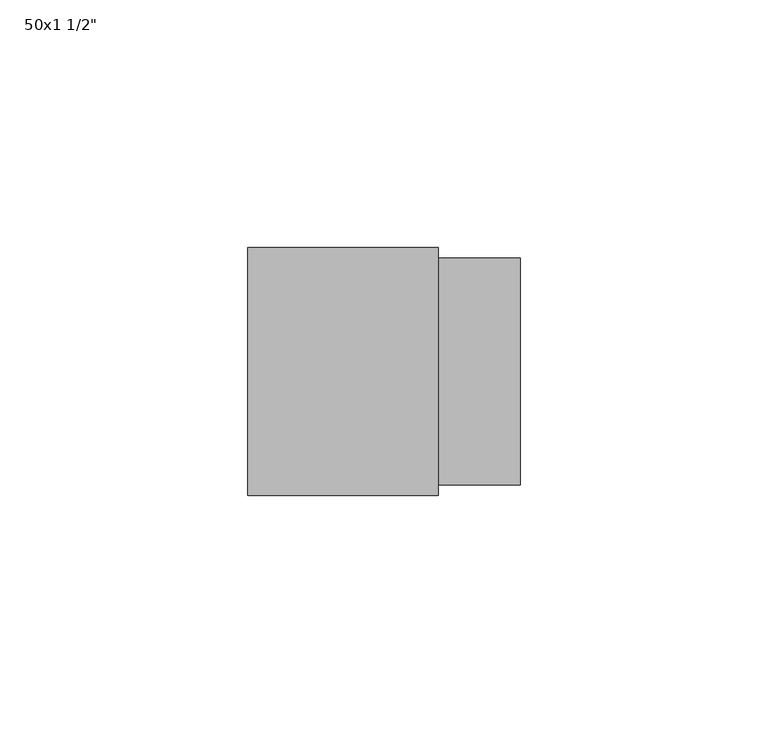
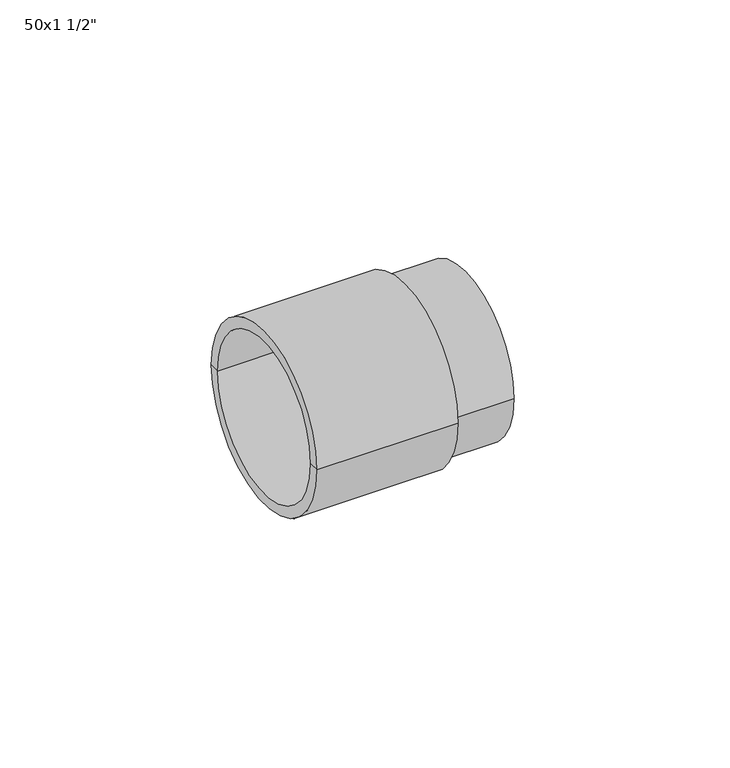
"""IFC4 building model written with IfcOpenShell, lengths in millimetres: pipe fitting geometry."""

import ifcopenshell
import ifcopenshell.guid

model = None  # the IFC model being written
_history = None  # IfcOwnerHistory: only IFC2X3 demands one
_inside = {}  # id of a spatial element -> (the spatial element, [elements in it])
_under = {}  # id of a project, library or spatial element -> (it, [spatial elements below it])
_declared = {}  # id of a project -> (the project, [libraries it declares])
_typed = {}  # id of a type object -> (the type object, [elements of that type])
_made_of = {}  # id of a material, layer set ... -> (it, [elements and type objects made of it])


def new_model(schema):
    """Start an empty IFC model of exactly this schema.

    Asked for "IFC4X3", IfcOpenShell would pick the latest addendum, in which some entities
    have other attributes; the version numbers below select the first issue.
    IFC2X3 requires an IfcOwnerHistory on every rooted entity: one is made here for all.
    """
    global model, _history
    if schema == "IFC4X3":
        model = ifcopenshell.file(schema_version=(4, 3, 0, 0))
    else:
        model = ifcopenshell.file(schema=schema)
    _inside.clear()
    _under.clear()
    _declared.clear()
    _typed.clear()
    _made_of.clear()
    _history = None
    if model.schema == "IFC2X3":
        org = make("IfcOrganization", Name="unknown")
        user = make(
            "IfcPersonAndOrganization",
            ThePerson=make("IfcPerson", FamilyName="unknown"),
            TheOrganization=org,
        )
        app = make(
            "IfcApplication",
            ApplicationDeveloper=org,
            Version="unknown",
            ApplicationFullName="unknown",
            ApplicationIdentifier="unknown",
        )
        _history = make(
            "IfcOwnerHistory",
            OwningUser=user,
            OwningApplication=app,
            ChangeAction="ADDED",
            CreationDate=0,
        )
    return model


def make(cls, **values):
    """One entity of the class cls with the attributes given. An attribute that is None is left unset."""
    return model.create_entity(
        cls, **{name: value for name, value in values.items() if value is not None}
    )


def rooted(cls, **values):
    """An entity with a GlobalId (a new one), such as an element, a storey or a relation."""
    return make(cls, GlobalId=ifcopenshell.guid.new(), OwnerHistory=_history, **values)


def si_unit(unit_type, name, prefix=None):
    """IfcSIUnit, for example si_unit("LENGTHUNIT", "METRE", prefix="MILLI")."""
    return make("IfcSIUnit", UnitType=unit_type, Prefix=prefix, Name=name)


def assignment(units):
    """IfcUnitAssignment: the units of a project."""
    return None if units is None else make("IfcUnitAssignment", Units=units)


def point(xyz):
    """IfcCartesianPoint."""
    return None if xyz is None else make("IfcCartesianPoint", Coordinates=xyz)


def direction(xyz):
    """IfcDirection."""
    return None if xyz is None else make("IfcDirection", DirectionRatios=xyz)


def frame(location, z_axis=None, x_axis=None):
    """IfcAxis2Placement3D, a coordinate frame: its origin and axes. An axis left out is left unset."""
    return make(
        "IfcAxis2Placement3D",
        Location=point(location),
        Axis=direction(z_axis),
        RefDirection=direction(x_axis),
    )


def origin():
    """The frame at (0, 0, 0) with its axes left unset."""
    return frame((0.0, 0.0, 0.0))


def place(relative_to, where):
    """IfcLocalPlacement: puts the frame where relative to a parent placement (None: the world)."""
    return make(
        "IfcLocalPlacement", PlacementRelTo=relative_to, RelativePlacement=where
    )


def context(
    kind, dimensions, precision=None, world=None, true_north=None, identifier=None
):
    """IfcGeometricRepresentationContext, for example the 3D "Model" context."""
    return make(
        "IfcGeometricRepresentationContext",
        ContextIdentifier=identifier,
        ContextType=kind,
        CoordinateSpaceDimension=dimensions,
        Precision=precision,
        WorldCoordinateSystem=world,
        TrueNorth=true_north,
    )


def project(units=None, contexts=None):
    """IfcProject with its units and contexts."""
    return rooted(
        "IfcProject",
        Name="project",
        RepresentationContexts=contexts,
        UnitsInContext=assignment(units),
    )


def spatial(cls, under=None, at=None, **own):
    """A site, building, storey or space (cls), placed at a placement, below another one or the project."""
    s = rooted(cls, ObjectPlacement=at, **own)
    if under is not None:
        _under.setdefault(under.id(), (under, []))[1].append(s)
    return s


def polyline(points):
    """IfcPolyline through the points."""
    return make("IfcPolyline", Points=[point(p) for p in points])


def circle_curve(where, radius):
    """IfcCircle in the frame where."""
    return make("IfcCircle", Position=where, Radius=radius)


def shape(context_of_items, identifier, shape_type, items):
    """IfcShapeRepresentation: the items that make up one representation, for example the "Body"."""
    return make(
        "IfcShapeRepresentation",
        ContextOfItems=context_of_items,
        RepresentationIdentifier=identifier,
        RepresentationType=shape_type,
        Items=items,
    )


def source(mapping_origin, context_of_items, identifier, shape_type, items):
    """IfcRepresentationMap: a shape defined once, which mapped items show again and again."""
    return make(
        "IfcRepresentationMap",
        MappingOrigin=mapping_origin,
        MappedRepresentation=shape(context_of_items, identifier, shape_type, items),
    )


def transform(
    local_origin,
    x_axis=None,
    y_axis=None,
    z_axis=None,
    scale=None,
    scale2=None,
    scale3=None,
    uniform=True,
):
    """IfcCartesianTransformationOperator3D, or its non-uniform kind. x_axis, y_axis, z_axis: its Axis1, 2, 3."""
    if uniform:
        return make(
            "IfcCartesianTransformationOperator3D",
            Axis1=direction(x_axis),
            Axis2=direction(y_axis),
            LocalOrigin=point(local_origin),
            Scale=scale,
            Axis3=direction(z_axis),
        )
    return make(
        "IfcCartesianTransformationOperator3DnonUniform",
        Axis1=direction(x_axis),
        Axis2=direction(y_axis),
        LocalOrigin=point(local_origin),
        Scale=scale,
        Axis3=direction(z_axis),
        Scale2=scale2,
        Scale3=scale3,
    )


def mapped(mapping_source, mapping_target):
    """IfcMappedItem: shows the shape of a source again, moved by a transform."""
    return make(
        "IfcMappedItem", MappingSource=mapping_source, MappingTarget=mapping_target
    )


def made_of(thing, what):
    """Note that an element or type object is made of a material, layer set ...; save() writes the relation."""
    if what is not None:
        _made_of.setdefault(what.id(), (what, []))[1].append(thing)
    return thing


def element(
    cls,
    number,
    at=None,
    inside=None,
    cuts=None,
    type_object=None,
    material=None,
    context=None,
    identifier="Body",
    shape_type=None,
    held_by="IfcProductDefinitionShape",
    body=None,
    shapes=None,
    **own,
):
    """One element of the class cls, such as IfcWall. Its Tag is "e" and its number.

    at: its placement. inside: the storey or other place that contains it. cuts: it is an
    opening in that element (IfcRelVoidsElement). A single representation is given by context,
    identifier, shape_type and body (its items); several are given by shapes. held_by: the class
    of the entity that holds the representations. save() writes the other relations.
    """
    e = rooted(cls, Tag="e%d" % number, ObjectPlacement=at, **own)
    if body is not None:
        shapes = [shape(context, identifier, shape_type, body)]
    if shapes is not None:
        e.Representation = make(held_by, Representations=shapes)
    if inside is not None:
        _inside.setdefault(inside.id(), (inside, []))[1].append(e)
    if cuts is not None:
        rooted(
            "IfcRelVoidsElement", RelatingBuildingElement=cuts, RelatedOpeningElement=e
        )
    if type_object is not None:
        _typed.setdefault(type_object.id(), (type_object, []))[1].append(e)
    return made_of(e, material)


def aggregate(whole, parts):
    """IfcRelAggregates: a whole, such as a stair, and the parts it consists of."""
    return rooted("IfcRelAggregates", RelatingObject=whole, RelatedObjects=parts)


def save(model, path):
    """Write the relations noted so far, then the file.

    IfcRelAggregates (storeys below a building ...), IfcRelContainedInSpatialStructure (elements
    in a storey), IfcRelDefinesByType, IfcRelAssociatesMaterial and IfcRelDeclares: one each for
    every whole, place, type object, material and project.
    """
    for whole, parts in _under.values():
        aggregate(whole, parts)
    for where, things in _inside.values():
        rooted(
            "IfcRelContainedInSpatialStructure",
            RelatedElements=things,
            RelatingStructure=where,
        )
    for kind, things in _typed.values():
        rooted("IfcRelDefinesByType", RelatedObjects=things, RelatingType=kind)
    for what, things in _made_of.values():
        rooted("IfcRelAssociatesMaterial", RelatedObjects=things, RelatingMaterial=what)
    for by, libraries in _declared.values():
        rooted("IfcRelDeclares", RelatingContext=by, RelatedDefinitions=libraries)
    model.write(path)


def plane_surface(at):
    """IfcPlane: the flat surface through the origin of the frame at, square to its z axis."""
    return make("IfcPlane", Position=at)


def cylinder_surface(at, radius):
    """IfcCylindricalSurface: all points at the distance radius from the z axis of the frame at."""
    return make("IfcCylindricalSurface", Position=at, Radius=radius)


def revolved_surface(curve, axis_point, axis_direction):
    """IfcSurfaceOfRevolution: the curve turned about the line through axis_point along axis_direction."""
    return make(
        "IfcSurfaceOfRevolution",
        SweptCurve=make("IfcArbitraryOpenProfileDef", ProfileType="CURVE", Curve=curve),
        AxisPosition=make("IfcAxis1Placement", Location=point(axis_point), Axis=direction(axis_direction)),
    )


def advanced_brep(points, edges, surfaces, faces):
    """IfcAdvancedBrep: a solid bounded by faces that lie on surfaces and meet in shared edges.

    An edge is (start, end): straight between two places in points (the first is 0);
    or (start, end, curve); or (start, end, curve, False) where it runs against its curve.
    A face is (place in surfaces, loops), or (place, loops, False) where it looks against
    its surface's normal. A loop lists edges by number (the first is 1), with a minus sign
    where the edge is run from its end to its start. The first loop is the outer one.
    """
    corners = [point(p) for p in points]
    vertices = [make("IfcVertexPoint", VertexGeometry=c) for c in corners]
    made = []
    for start, end, *more in edges:
        made.append(
            make(
                "IfcEdgeCurve",
                EdgeStart=vertices[start],
                EdgeEnd=vertices[end],
                EdgeGeometry=more[0] if more else make("IfcPolyline", Points=[corners[start], corners[end]]),
                SameSense=more[1] if len(more) > 1 else True,
            )
        )
    hull = []
    for where, loops, *sense in faces:
        bounds = []
        for j, loop in enumerate(loops):
            ring = [make("IfcOrientedEdge", EdgeElement=made[abs(k) - 1], Orientation=k > 0) for k in loop]
            bounds.append(
                make(
                    "IfcFaceOuterBound" if j == 0 else "IfcFaceBound",
                    Bound=make("IfcEdgeLoop", EdgeList=ring),
                    Orientation=True,
                )
            )
        hull.append(make("IfcAdvancedFace", Bounds=bounds, FaceSurface=surfaces[where], SameSense=sense[0] if sense else True))
    return make("IfcAdvancedBrep", Outer=make("IfcClosedShell", CfsFaces=hull))


def pipe_fitting_bb78ae25(model_context):
    return source(origin(), model_context, "Body", "AdvancedBrep", [
        advanced_brep(
        [(0.0, -22.0, 0.0), (0.0, 22.0, 0.0), (-22.0, 22.0, 0.0), (-22.0, -22.0, 0.0), (11.0, -19.0, 0.0), (11.0, 19.0, 0.0), (33.0, -19.0, 0.0), (33.0, 19.0, 0.0), (33.0, -22.8817706, 0.0), (33.0, 22.8817706, 0.0), (16.4870761, -22.8817706, 0.0), (16.4870761, 22.8817706, 0.0), (16.4870761, -25.0, 0.0), (16.4870761, 25.0, 0.0), (-22.0, -25.0, 0.0), (-22.0, 25.0, 0.0)],
        [
            (0, 1, circle_curve(frame((0.0, 0.0, 0.0), z_axis=(1.0, 0.0, 0.0), x_axis=(0.0, 1.0, 0.0)), 22.0)),
            (1, 2),
            (2, 3, circle_curve(frame((-22.0, 0.0, 0.0), z_axis=(-1.0, 0.0, 0.0), x_axis=(0.0, 1.0, 0.0)), 22.0)),
            (3, 0),
            (1, 0, circle_curve(frame((0.0, 0.0, 0.0), z_axis=(1.0, 0.0, 0.0), x_axis=(0.0, 1.0, 0.0)), 22.0)),
            (3, 2, circle_curve(frame((-22.0, 0.0, 0.0), z_axis=(-1.0, 0.0, 0.0), x_axis=(0.0, 1.0, 0.0)), 22.0)),
            (4, 5, circle_curve(frame((11.0, 0.0, 0.0), z_axis=(1.0, 0.0, 0.0), x_axis=(0.0, 1.0, 0.0)), 19.0)),
            (5, 1),
            (0, 4),
            (5, 4, circle_curve(frame((11.0, 0.0, 0.0), z_axis=(1.0, 0.0, 0.0), x_axis=(0.0, 1.0, 0.0)), 19.0)),
            (6, 7, circle_curve(frame((33.0, 0.0, 0.0), z_axis=(1.0, 0.0, 0.0), x_axis=(0.0, 1.0, 0.0)), 19.0)),
            (7, 5),
            (4, 6),
            (7, 6, circle_curve(frame((33.0, 0.0, 0.0), z_axis=(1.0, 0.0, 0.0), x_axis=(0.0, 1.0, 0.0)), 19.0)),
            (8, 9, circle_curve(frame((33.0, 0.0, 0.0), z_axis=(1.0, 0.0, 0.0), x_axis=(0.0, 1.0, 0.0)), 22.8817706)),
            (9, 7),
            (6, 8),
            (9, 8, circle_curve(frame((33.0, 0.0, 0.0), z_axis=(1.0, 0.0, 0.0), x_axis=(0.0, 1.0, 0.0)), 22.8817706)),
            (10, 11, circle_curve(frame((16.4870761, 0.0, 0.0), z_axis=(1.0, 0.0, 0.0), x_axis=(0.0, 1.0, 0.0)), 22.8817706)),
            (11, 9),
            (8, 10),
            (11, 10, circle_curve(frame((16.4870761, 0.0, 0.0), z_axis=(1.0, 0.0, 0.0), x_axis=(0.0, 1.0, 0.0)), 22.8817706)),
            (12, 13, circle_curve(frame((16.4870761, 0.0, 0.0), z_axis=(1.0, 0.0, 0.0), x_axis=(0.0, 1.0, 0.0)), 25.0)),
            (13, 11),
            (10, 12),
            (13, 12, circle_curve(frame((16.4870761, 0.0, 0.0), z_axis=(1.0, 0.0, 0.0), x_axis=(0.0, 1.0, 0.0)), 25.0)),
            (14, 15, circle_curve(frame((-22.0, 0.0, 0.0), z_axis=(1.0, 0.0, 0.0), x_axis=(0.0, 1.0, 0.0)), 25.0)),
            (15, 13),
            (12, 14),
            (15, 14, circle_curve(frame((-22.0, 0.0, 0.0), z_axis=(1.0, 0.0, 0.0), x_axis=(0.0, 1.0, 0.0)), 25.0)),
            (2, 15),
            (14, 3),
        ],
        [
            revolved_surface(polyline([(-22.0, 22.0, 0.0), (0.0, 22.0, 0.0)]), (2000.0, 0.0, 0.0), (-1.0, 0.0, 0.0)),
            revolved_surface(polyline([(0.0, 22.0, 0.0), (11.0, 19.0, 0.0)]), (2000.0, 0.0, 0.0), (-1.0, 0.0, 0.0)),
            revolved_surface(polyline([(11.0, 19.0, 0.0), (33.0, 19.0, 0.0)]), (2000.0, 0.0, 0.0), (-1.0, 0.0, 0.0)),
            plane_surface(frame((33.0, 0.0, 0.0), z_axis=(1.0, 0.0, 0.0), x_axis=(0.0, 1.0, 0.0))),
            cylinder_surface(frame((2000.0, 0.0, 0.0), z_axis=(-1.0, 0.0, 0.0), x_axis=(0.0, 1.0, 0.0)), 22.8817706),
            plane_surface(frame((16.4870761, 0.0, 0.0), z_axis=(1.0, 0.0, 0.0), x_axis=(0.0, 1.0, 0.0))),
            cylinder_surface(frame((2000.0, 0.0, 0.0), z_axis=(-1.0, 0.0, 0.0), x_axis=(0.0, 1.0, 0.0)), 25.0),
            plane_surface(frame((-22.0, 0.0, 0.0), z_axis=(-1.0, 0.0, 0.0), x_axis=(0.0, 1.0, 0.0))),
        ],
        [
            (0, [[1, 2, 3, 4]]),
            (0, [[5, -4, 6, -2]]),
            (1, [[7, 8, -1, 9]]),
            (1, [[10, -9, -5, -8]]),
            (2, [[11, 12, -7, 13]]),
            (2, [[14, -13, -10, -12]]),
            (3, [[15, 16, -11, 17]]),
            (3, [[18, -17, -14, -16]]),
            (4, [[19, 20, -15, 21]]),
            (4, [[22, -21, -18, -20]]),
            (5, [[23, 24, -19, 25]]),
            (5, [[26, -25, -22, -24]]),
            (6, [[27, 28, -23, 29]]),
            (6, [[30, -29, -26, -28]]),
            (7, [[-3, 31, -27, 32]]),
            (7, [[-6, -32, -30, -31]]),
        ],
    ),
    ])


if __name__ == "__main__":
    model = new_model("IFC4")
    model_context = context("Model", 3, world=origin())
    ifc_project = project(units=[si_unit("LENGTHUNIT", "METRE", prefix="MILLI")], contexts=[model_context])
    site = spatial("IfcSite", under=ifc_project)
    building = spatial("IfcBuilding", under=site)
    placement = place(None, origin())
    pipe_fitting_shape = pipe_fitting_bb78ae25(model_context)
    element("IfcPipeFitting", 1, ObjectType="Wavin_PipeFitting_PeReducerMft : 50x1 1/2\"", at=placement, inside=building, context=model_context, shape_type="MappedRepresentation", body=[
        mapped(pipe_fitting_shape, transform((0.0, 0.0, 0.0), x_axis=(1.0, 0.0, 0.0), y_axis=(0.0, 1.0, 0.0), z_axis=(0.0, 0.0, 1.0))),
    ])
    save(model, "model.ifc")
